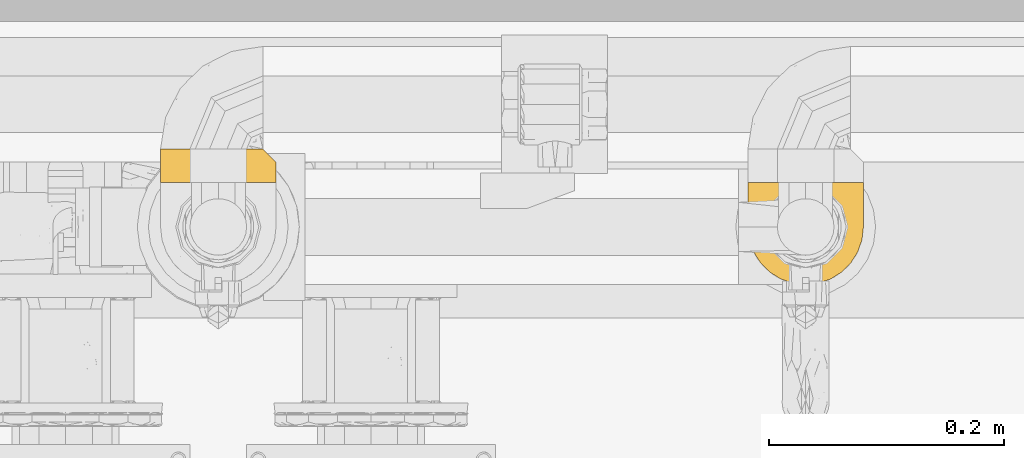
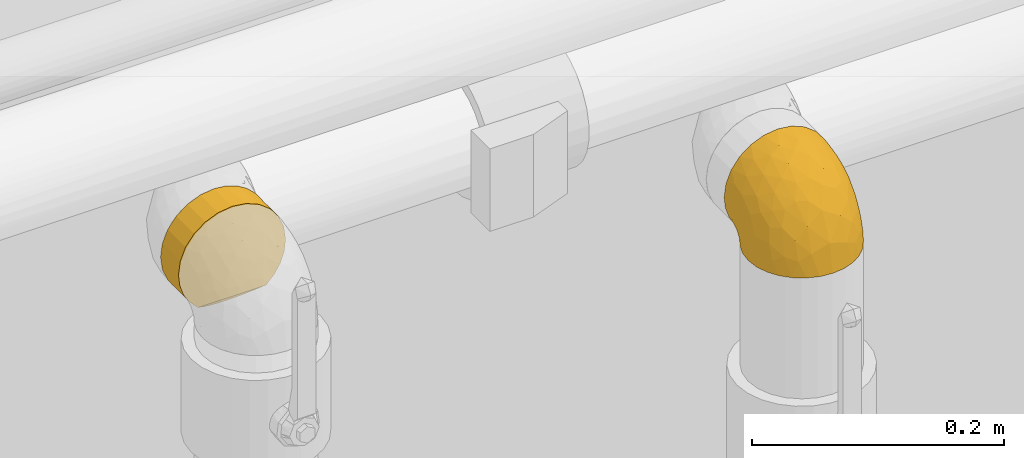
# One storey, part 18 of 94: 2 coverings.
"""IFC2X3 building model written with IfcOpenShell, lengths in millimetres."""

from ifc_helpers import new_model, entity, si_unit, converted_unit, derived_unit, direction, frame, origin, place, context, subcontext, project, spatial, faceted_brep, material, element, save


model = new_model("IFC2X3")

# Units and contexts
model_context = context("Model", 3, precision=0.01, world=origin(), true_north=direction((6.123031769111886e-17, 1.0)))
body_context = subcontext(model_context, "Body", "Model", "MODEL_VIEW")
ifc_project = project(units=[si_unit("LENGTHUNIT", "METRE", prefix="MILLI"), si_unit("AREAUNIT", "SQUARE_METRE"), si_unit("VOLUMEUNIT", "CUBIC_METRE"), converted_unit("PLANEANGLEUNIT", "DEGREE", entity("IfcRatioMeasure", 0.017453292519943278), si_unit("PLANEANGLEUNIT", "RADIAN"), dimensions=[0, 0, 0, 0, 0, 0, 0]), si_unit("MASSUNIT", "GRAM", prefix="KILO"), derived_unit("MASSDENSITYUNIT", [(si_unit("MASSUNIT", "GRAM", prefix="KILO"), 1), (si_unit("LENGTHUNIT", "METRE"), -3)]), derived_unit("IONCONCENTRATIONUNIT", [(si_unit("MASSUNIT", "GRAM", prefix="KILO"), 1), (si_unit("LENGTHUNIT", "METRE"), -3)]), derived_unit("MOMENTOFINERTIAUNIT", [(si_unit("LENGTHUNIT", "METRE"), 4)]), si_unit("TIMEUNIT", "SECOND"), si_unit("FREQUENCYUNIT", "HERTZ"), si_unit("THERMODYNAMICTEMPERATUREUNIT", "DEGREE_CELSIUS"), derived_unit("THERMALTRANSMITTANCEUNIT", [(si_unit("MASSUNIT", "GRAM", prefix="KILO"), 1), (si_unit("THERMODYNAMICTEMPERATUREUNIT", "KELVIN"), -1), (si_unit("TIMEUNIT", "SECOND"), -3)]), derived_unit("THERMALCONDUCTANCEUNIT", [(si_unit("MASSUNIT", "GRAM", prefix="KILO"), 1), (si_unit("THERMODYNAMICTEMPERATUREUNIT", "KELVIN"), -1), (si_unit("TIMEUNIT", "SECOND"), -3), (si_unit("LENGTHUNIT", "METRE"), 1)]), derived_unit("VOLUMETRICFLOWRATEUNIT", [(si_unit("LENGTHUNIT", "METRE"), 3), (si_unit("TIMEUNIT", "SECOND"), -1)]), derived_unit("MASSFLOWRATEUNIT", [(si_unit("MASSUNIT", "GRAM", prefix="KILO"), 1), (si_unit("TIMEUNIT", "SECOND"), -1)]), derived_unit("ROTATIONALFREQUENCYUNIT", [(si_unit("TIMEUNIT", "SECOND"), -1)]), si_unit("ELECTRICCURRENTUNIT", "AMPERE"), si_unit("ELECTRICVOLTAGEUNIT", "VOLT"), si_unit("POWERUNIT", "WATT"), si_unit("FORCEUNIT", "NEWTON", prefix="KILO"), si_unit("ILLUMINANCEUNIT", "LUX"), si_unit("LUMINOUSFLUXUNIT", "LUMEN"), si_unit("LUMINOUSINTENSITYUNIT", "CANDELA"), derived_unit("USERDEFINED", [(si_unit("MASSUNIT", "GRAM", prefix="KILO"), -1), (si_unit("LENGTHUNIT", "METRE"), -2), (si_unit("TIMEUNIT", "SECOND"), 3), (si_unit("LUMINOUSFLUXUNIT", "LUMEN"), 1)]), derived_unit("USERDEFINED", [(si_unit("MASSUNIT", "GRAM", prefix="KILO"), 1), (si_unit("TIMEUNIT", "SECOND"), -3), (si_unit("LENGTHUNIT", "METRE"), 3), (si_unit("ELECTRICCURRENTUNIT", "AMPERE"), -2)]), derived_unit("SOUNDPOWERUNIT", [(si_unit("MASSUNIT", "GRAM", prefix="KILO"), 1), (si_unit("TIMEUNIT", "SECOND"), -3), (si_unit("LENGTHUNIT", "METRE"), 2)]), derived_unit("SOUNDPRESSUREUNIT", [(si_unit("MASSUNIT", "GRAM", prefix="KILO"), 1), (si_unit("LENGTHUNIT", "METRE"), -1), (si_unit("TIMEUNIT", "SECOND"), -2)]), derived_unit("LINEARVELOCITYUNIT", [(si_unit("LENGTHUNIT", "METRE"), 1), (si_unit("TIMEUNIT", "SECOND"), -1)]), si_unit("PRESSUREUNIT", "PASCAL"), derived_unit("USERDEFINED", [(si_unit("MASSUNIT", "GRAM", prefix="KILO"), 1), (si_unit("LENGTHUNIT", "METRE"), -2), (si_unit("TIMEUNIT", "SECOND"), -2)]), derived_unit("LINEARFORCEUNIT", [(si_unit("MASSUNIT", "GRAM", prefix="KILO"), 1), (si_unit("TIMEUNIT", "SECOND"), -2)]), derived_unit("PLANARFORCEUNIT", [(si_unit("MASSUNIT", "GRAM", prefix="KILO"), 1), (si_unit("LENGTHUNIT", "METRE"), -1), (si_unit("TIMEUNIT", "SECOND"), -2)]), derived_unit("SPECIFICHEATCAPACITYUNIT", [(si_unit("THERMODYNAMICTEMPERATUREUNIT", "KELVIN"), -1), (si_unit("LENGTHUNIT", "METRE"), 2), (si_unit("TIMEUNIT", "SECOND"), -2)]), derived_unit("HEATINGVALUEUNIT", [(si_unit("LENGTHUNIT", "METRE"), 2), (si_unit("TIMEUNIT", "SECOND"), -2)]), derived_unit("VAPORPERMEABILITYUNIT", [(si_unit("LENGTHUNIT", "METRE"), -1), (si_unit("TIMEUNIT", "SECOND"), 1)]), derived_unit("DYNAMICVISCOSITYUNIT", [(si_unit("MASSUNIT", "GRAM", prefix="KILO"), 1), (si_unit("TIMEUNIT", "SECOND"), -1), (si_unit("LENGTHUNIT", "METRE"), -1)]), derived_unit("THERMALEXPANSIONCOEFFICIENTUNIT", [(si_unit("THERMODYNAMICTEMPERATUREUNIT", "KELVIN"), -1)]), derived_unit("MODULUSOFELASTICITYUNIT", [(si_unit("MASSUNIT", "GRAM", prefix="KILO"), 1), (si_unit("LENGTHUNIT", "METRE"), -1), (si_unit("TIMEUNIT", "SECOND"), -2)]), derived_unit("ISOTHERMALMOISTURECAPACITYUNIT", [(si_unit("LENGTHUNIT", "METRE"), 3), (si_unit("MASSUNIT", "GRAM", prefix="KILO"), -1)]), derived_unit("MOISTUREDIFFUSIVITYUNIT", [(si_unit("TIMEUNIT", "SECOND"), -1), (si_unit("LENGTHUNIT", "METRE"), 2)])], contexts=[model_context])

# Site, building, storey
site_placement = place(None, origin())
site = spatial("IfcSite", under=ifc_project, at=site_placement, Name="Default", CompositionType="ELEMENT")
building_placement = place(site_placement, origin())
building = spatial("IfcBuilding", under=site, at=building_placement, CompositionType="ELEMENT")
storey_placement = place(building_placement, origin())
storey = spatial("IfcBuildingStorey", under=building, at=storey_placement, Name="Niveau 0", CompositionType="ELEMENT", Elevation=0.0)

# Coverings
ifc_material = material(Name="Isolation - Laine minérale")
covering_1_placement = place(storey_placement, frame((-9022.891137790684, 9871.725273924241, 2610.4047277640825)))
element("IfcCovering", 1, at=covering_1_placement, inside=storey, material=ifc_material, Name="Isolation des canalisations:Laine minérale", ObjectType="Isolation des canalisations:Laine minérale", PredefinedType="INSULATION", context=body_context, shape_type="Brep", body=[
    faceted_brep([(95.02415814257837, 29.412134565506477, 1.5952722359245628), (89.16631019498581, 20.093252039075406, 1.5952722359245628), (81.38263886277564, 12.31254833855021, 1.5952722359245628), (72.06354573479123, 6.459227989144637, 1.5952722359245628), (61.67593083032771, 2.8261403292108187, 1.5952722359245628), (50.74527223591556, 1.5952722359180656, 1.5952722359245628), (39.80290363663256, 2.8288129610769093, 1.5952722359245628), (29.41213456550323, 6.4663863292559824, 1.5952722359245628), (20.093252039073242, 12.324234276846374, 1.5952722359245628), (12.31254833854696, 20.10790560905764, 1.5952722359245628), (6.459227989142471, 29.42699873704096, 1.5952722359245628), (2.826140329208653, 39.81461364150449, 1.5952722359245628), (1.5952722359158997, 50.74527223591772, 1.5952722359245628), (2.765001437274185, 61.404358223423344, 1.5952722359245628), (6.216868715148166, 71.55257335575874, 1.5952722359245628), (11.785042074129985, 80.70896636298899, 1.5952722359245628), (19.19437336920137, 88.43165280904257, 1.5952722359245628), (21.63864226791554, 88.43165280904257, 1.5952722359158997), (23.415694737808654, 88.43165280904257, 1.5952722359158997), (25.192747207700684, 88.43165280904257, 1.5952722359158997), (26.692340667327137, 88.43165280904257, 1.5952722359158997), (28.191934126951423, 88.43165280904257, 1.5952722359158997), (31.191121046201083, 88.43165280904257, 1.5952722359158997), (34.19030796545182, 88.43165280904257, 1.5952722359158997), (37.18949488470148, 88.43165280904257, 1.5952722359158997), (40.18868180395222, 88.43165280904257, 1.5952722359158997), (41.68827526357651, 88.43165280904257, 1.5952722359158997), (43.18786872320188, 88.43165280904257, 1.5952722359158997), (45.63213762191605, 88.43165280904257, 1.5952722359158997), (48.07640652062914, 88.43165280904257, 1.5952722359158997), (50.5206754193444, 88.43165280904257, 1.5952722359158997), (52.96494431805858, 88.43165280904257, 1.5952722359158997), (55.40921321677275, 88.43165280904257, 1.5952722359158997), (57.853482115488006, 88.43165280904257, 1.5952722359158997), (60.2977510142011, 88.43165280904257, 1.5952722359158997), (62.742019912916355, 88.43165280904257, 1.5952722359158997), (65.18628881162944, 88.43165280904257, 1.5952722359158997), (67.6305577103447, 88.43165280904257, 1.5952722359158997), (70.07482660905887, 88.43165280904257, 1.5952722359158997), (72.51909550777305, 88.43165280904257, 1.5952722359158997), (74.96336440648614, 88.43165280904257, 1.5952722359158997), (77.4076333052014, 88.43165280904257, 1.5952722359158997), (79.85190220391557, 88.43165280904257, 1.5952722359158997), (82.29617110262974, 88.43165280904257, 1.5952722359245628), (89.71827412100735, 80.69235262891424, 1.5952722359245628), (95.28368576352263, 71.53113811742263, 1.5952722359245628), (98.73008326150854, 61.383900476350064, 1.5952722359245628), (99.89527223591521, 50.74527223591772, 1.5952722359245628), (98.66173151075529, 39.802903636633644, 1.5952722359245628), (11.777056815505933, 88.74527223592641, 9.641963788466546), (6.211862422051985, 88.74527223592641, 18.798688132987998), (2.7632985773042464, 88.74527223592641, 28.94385431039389), (1.5952722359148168, 88.74527223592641, 39.59527223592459), (3.270017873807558, 88.74527223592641, 52.31622830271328), (8.18012363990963, 88.74527223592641, 64.17027223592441), (15.990973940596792, 88.74527223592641, 74.34957053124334), (26.17027223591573, 88.74527223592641, 82.16042083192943), (38.02431616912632, 88.74527223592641, 87.07052659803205), (50.74527223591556, 88.74527223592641, 88.74527223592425), (63.466228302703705, 88.74527223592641, 87.07052659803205), (75.32027223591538, 88.74527223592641, 82.16042083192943), (85.49957053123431, 88.74527223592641, 74.34957053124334), (93.3104208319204, 88.74527223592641, 64.17027223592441), (98.22052659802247, 88.74527223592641, 52.31622830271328), (99.89527223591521, 88.74527223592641, 39.59527223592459), (98.72724589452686, 88.74527223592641, 28.94385431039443), (95.27868204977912, 88.74527223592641, 18.798688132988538), (89.71348765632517, 88.74527223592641, 9.641963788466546), (82.29617110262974, 88.74527223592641, 1.9088916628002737), (79.85190220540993, 88.74527223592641, 1.9088916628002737), (78.3523087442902, 88.74527223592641, 1.9088916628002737), (76.38037756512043, 88.74527223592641, 1.9088916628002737), (74.40844638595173, 88.74527223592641, 1.9088916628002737), (72.43651520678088, 88.74527223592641, 1.9088916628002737), (70.46458402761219, 88.74527223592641, 1.9088916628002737), (68.49265284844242, 88.74527223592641, 1.9088916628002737), (66.52072166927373, 88.74527223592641, 1.9088916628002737), (64.54879049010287, 88.74527223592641, 1.9088916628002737), (62.5768593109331, 88.74527223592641, 1.9088916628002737), (60.60492813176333, 88.74527223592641, 1.9088916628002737), (58.63299695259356, 88.74527223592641, 1.9088916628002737), (56.66106577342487, 88.74527223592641, 1.9088916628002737), (54.6891345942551, 88.74527223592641, 1.9088916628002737), (52.71720341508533, 88.74527223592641, 1.9088916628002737), (50.74527223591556, 88.74527223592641, 1.9088916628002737), (48.7733410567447, 88.74527223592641, 1.9088916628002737), (46.80140987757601, 88.74527223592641, 1.9088916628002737), (44.82947869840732, 88.74527223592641, 1.9088916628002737), (42.85754751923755, 88.74527223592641, 1.9088916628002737), (40.88561634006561, 88.74527223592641, 1.9088916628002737), (38.913685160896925, 88.74527223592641, 1.9088916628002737), (36.94175398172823, 88.74527223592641, 1.9088916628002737), (34.96982280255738, 88.74527223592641, 1.9088916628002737), (31.97063588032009, 88.74527223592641, 1.9088916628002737), (28.97144895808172, 88.74527223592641, 1.9088916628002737), (26.5271800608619, 88.74527223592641, 1.9088916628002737), (24.082911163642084, 88.74527223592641, 1.9088916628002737), (21.638642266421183, 88.74527223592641, 1.9088916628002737), (19.19437336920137, 88.74527223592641, 1.908891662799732), (53.75333970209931, 88.53090125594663, 1.8241875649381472), (51.832765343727, 88.52210831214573, 1.8156242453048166), (61.47290163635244, 88.52122178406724, 1.8147227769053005), (63.56282540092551, 88.52777998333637, 1.821224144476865), (48.00102702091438, 88.54092532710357, 1.8331787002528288), (77.24999397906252, 88.53506454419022, 1.828016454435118), (80.69913834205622, 88.49130573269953, 1.7792781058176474), (42.43807145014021, 88.51810292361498, 1.8114926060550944), (22.860776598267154, 88.52350981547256, 1.8170346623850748), (24.70021643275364, 88.52548149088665, 1.8189889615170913), (71.3700895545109, 88.51653277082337, 1.809830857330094), (73.40383885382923, 88.52674320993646, 1.820221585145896), (44.410002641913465, 88.50469006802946, 1.796462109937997), (37.92771907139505, 88.52964682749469, 1.8230063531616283), (39.81308540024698, 88.53317608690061, 1.8262968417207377), (35.95578792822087, 88.51585328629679, 1.8091041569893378), (49.75930651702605, 88.52914218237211, 1.8225274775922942), (21.02757498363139, 88.52591800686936, 1.8194169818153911), (55.67510065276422, 88.53664906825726, 1.8294378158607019), (67.50668767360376, 88.53747885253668, 1.8301744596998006), (65.61454699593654, 88.53273195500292, 1.8258883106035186), (34.10458092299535, 88.53426299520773, 1.8272900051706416), (57.55217518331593, 88.53370000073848, 1.8267767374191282), (79.10210557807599, 88.52350981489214, 1.8170346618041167), (75.39441218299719, 88.53493173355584, 1.8278964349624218), (82.29617110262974, 88.52350981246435, 1.8170346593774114), (82.29617110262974, 88.4948797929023, 1.747915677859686), (82.29617110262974, 88.46624977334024, 1.6787966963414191), (19.19437336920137, 88.52350981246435, 1.8170346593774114), (19.19437336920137, 88.59262879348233, 1.845664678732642), (19.19437336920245, 88.66174777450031, 1.8742946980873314), (32.212157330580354, 88.5100064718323, 1.8026539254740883), (69.4355922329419, 88.53042484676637, 1.823740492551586), (46.24828797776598, 88.52246762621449, 1.81598755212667), (59.49061335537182, 88.52470424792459, 1.8182226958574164), (29.41925201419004, 88.50579329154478, 1.7977740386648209), (27.44213716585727, 88.5274414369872, 1.820897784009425), (82.29617110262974, 88.66174777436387, 1.8742946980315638), (82.29617110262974, 88.5926287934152, 1.845664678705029), (19.19437336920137, 88.46624977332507, 1.6787966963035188), (19.19437336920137, 88.49487979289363, 1.7479156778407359), (4.210283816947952, 85.22080157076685, 23.495219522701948), (8.744179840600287, 85.93611072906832, 13.747756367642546), (4.210283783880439, 81.07807843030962, 22.409779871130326), (9.955583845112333, 83.13289242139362, 10.562522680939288), (1.5952722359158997, 79.24527223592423, 37.049754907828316), (1.5952722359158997, 81.28890223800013, 37.59734391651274), (1.5952722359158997, 55.83630689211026, 20.595272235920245), (2.93549782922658, 66.39553001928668, 16.020149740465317), (4.213452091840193, 67.9404040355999, 9.261677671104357), (1.5952722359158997, 69.74527223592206, 34.50423757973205), (9.405305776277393, 80.67378389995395, 9.667897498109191), (9.963487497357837, 79.78892094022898, 7.202912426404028), (2.9356418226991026, 74.32109358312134, 23.94474674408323), (4.213452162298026, 66.85470593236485, 5.119390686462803), (8.750654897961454, 76.603363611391, 4.402893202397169), (5.690627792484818, 79.64911936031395, 17.541506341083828), (1.5952722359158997, 52.743200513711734, 9.051642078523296), (1.5952722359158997, 53.29078956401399, 11.095272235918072), (4.482619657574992, 73.61168493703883, 16.72885944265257), (1.5952722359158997, 62.790789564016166, 27.549754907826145), (5.766057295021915, 73.87988529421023, 12.071559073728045), (2.6117250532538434, 75.32913676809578, 47.62395095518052), (2.657531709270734, 65.9107418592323, 44.00144112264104), (11.131578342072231, 53.84761415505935, 58.899698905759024), (20.82464790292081, 59.13651173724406, 72.66771487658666), (11.7519547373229, 71.16612245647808, 67.20155656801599), (5.336592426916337, 67.0054527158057, 54.07984229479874), (5.336592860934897, 78.8805128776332, 57.54110754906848), (50.74527223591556, 37.51978749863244, 72.10110329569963), (50.74527223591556, 61.81444117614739, 84.4798476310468), (40.339739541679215, 53.875201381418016, 80.24801351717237), (9.124243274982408, 25.784943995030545, 13.851436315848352), (4.351045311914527, 36.24418276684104, 15.165285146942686), (32.64695426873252, 29.562882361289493, 60.77765845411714), (23.768909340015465, 30.770681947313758, 55.385836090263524), (35.61531809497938, 15.292222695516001, 43.89737524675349), (41.696133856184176, 71.31385843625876, 86.12648113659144), (30.50981773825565, 47.24102741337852, 73.23168363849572), (21.748430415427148, 43.50389303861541, 64.7473857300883), (20.824647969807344, 75.28985257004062, 77.40373146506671), (31.93638275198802, 67.10273039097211, 82.14716981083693), (15.984346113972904, 37.09920094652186, 52.82911549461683), (9.509703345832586, 44.51517687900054, 48.878965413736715), (11.405769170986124, 33.70477633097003, 40.607220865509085), (3.7235321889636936, 44.05169469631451, 28.76995319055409), (9.124242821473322, 30.044081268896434, 27.448445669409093), (15.984347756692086, 18.312338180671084, 19.800365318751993), (50.74527223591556, 5.8606968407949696, 28.52610329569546), (34.50535109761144, 7.041406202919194, 22.71562192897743), (18.535934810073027, 25.61446965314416, 42.31748570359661), (24.588194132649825, 15.886915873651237, 33.6838277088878), (24.588193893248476, 10.600409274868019, 16.806973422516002), (39.07585882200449, 38.50378416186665, 71.0785805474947), (42.346184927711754, 25.345180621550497, 60.332491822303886), (2.5632520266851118, 53.163504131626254, 33.37332146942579), (50.74527223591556, 18.239441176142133, 52.82075697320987), (4.722449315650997, 52.69469876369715, 43.46542968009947), (69.5541610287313, 58.17589226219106, 79.2001746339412), (59.5851078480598, 71.70091272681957, 86.24488809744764), (59.865425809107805, 54.57433327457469, 80.83807017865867), (66.13789702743, 42.49805076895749, 72.52816019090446), (69.55416221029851, 75.06235489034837, 83.87397883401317), (85.49332197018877, 24.5251412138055, 35.798660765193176), (78.98858976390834, 25.786342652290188, 48.02046276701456), (76.88743080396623, 15.878231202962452, 33.68736739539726), (85.49294527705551, 37.08979212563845, 52.83844921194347), (78.28666517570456, 35.71336208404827, 59.75598123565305), (97.13479117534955, 36.23150879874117, 15.170016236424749), (98.95303587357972, 70.53804152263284, 45.55141709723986), (99.89527223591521, 69.74527223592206, 34.50423757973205), (99.89527223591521, 79.24527223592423, 37.049754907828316), (66.97173870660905, 7.0362994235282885, 22.71467774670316), (80.66589652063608, 69.24086116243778, 76.07714087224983), (92.35692696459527, 30.03051209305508, 27.45465165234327), (92.35692651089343, 25.770245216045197, 13.854008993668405), (89.73858944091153, 76.87540408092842, 68.47065883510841), (96.15395178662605, 74.00473445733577, 56.45843349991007), (79.62483877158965, 48.41047025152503, 68.08854506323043), (89.7385902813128, 62.62553049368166, 64.29272071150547), (59.508159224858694, 31.220776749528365, 66.01125638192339), (68.8345286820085, 29.560345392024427, 60.78019542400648), (99.01263503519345, 79.82666983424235, 48.01911236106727), (76.887431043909, 10.591274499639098, 16.809109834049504), (65.85652255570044, 15.287247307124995, 43.900853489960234), (85.49294363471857, 18.299506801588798, 19.803681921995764), (97.76388503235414, 44.04987097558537, 28.786726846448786), (99.89527223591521, 55.83630689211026, 20.595272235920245), (98.78930951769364, 54.23536248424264, 35.485066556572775), (99.89527223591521, 62.790789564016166, 27.549754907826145), (99.89527223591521, 52.74320051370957, 9.051642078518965), (99.89527223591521, 53.29078956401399, 11.095272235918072), (91.50386042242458, 48.41211537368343, 53.16291239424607), (96.42683125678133, 64.14304703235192, 52.05308452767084), (93.1499194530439, 40.10640265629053, 41.401037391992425), (99.08337182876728, 62.89073418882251, 40.721221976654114), (86.09107557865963, 47.672778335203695, 60.91677547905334), (96.67816905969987, 55.38955823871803, 45.94061161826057), (97.28026029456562, 81.07807840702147, 22.409778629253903), (95.72662397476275, 78.26566497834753, 16.46425424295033), (98.5546584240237, 74.3207291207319, 23.943292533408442), (97.28026045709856, 85.22080145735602, 23.495218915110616), (92.74636428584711, 85.93611080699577, 13.74775580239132), (91.53641117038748, 83.13257230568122, 10.564867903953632), (90.1127562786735, 82.6819800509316, 7.656624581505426), (97.0051951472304, 73.61706381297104, 16.72348133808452), (91.54965419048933, 79.75777141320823, 7.216517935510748), (97.2842704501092, 67.9184535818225, 9.263185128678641), (97.28427059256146, 66.83334757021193, 5.1195933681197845), (92.7514749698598, 76.58449008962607, 4.405878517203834), (98.55441347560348, 66.39770760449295, 16.01862728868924), (95.80583125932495, 72.7838259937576, 10.692146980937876)], [[[0, 1, 2, 3, 4, 5, 6, 7, 8, 9, 10, 11, 12, 13, 14, 15, 16, 17, 18, 19, 20, 21, 22, 23, 24, 25, 26, 27, 28, 29, 30, 31, 32, 33, 34, 35, 36, 37, 38, 39, 40, 41, 42, 43, 44, 45, 46, 47, 48]], [[49, 50, 51, 52, 53, 54, 55, 56, 57, 58, 59, 60, 61, 62, 63, 64, 65, 66, 67, 68, 69, 70, 71, 72, 73, 74, 75, 76, 77, 78, 79, 80, 81, 82, 83, 84, 85, 86, 87, 88, 89, 90, 91, 92, 93, 94, 95, 96, 97, 98]], [[99, 100, 83]], [[101, 102, 35]], [[85, 103, 86]], [[71, 70, 104]], [[105, 69, 68]], [[27, 26, 106]], [[18, 107, 108]], [[109, 73, 110]], [[28, 27, 111]], [[25, 112, 113]], [[108, 96, 95]], [[114, 92, 91]], [[103, 85, 115]], [[96, 107, 97]], [[107, 17, 116]], [[78, 102, 101]], [[99, 117, 32]], [[76, 118, 119]], [[120, 92, 114]], [[112, 90, 113]], [[88, 111, 106]], [[40, 39, 110]], [[107, 96, 108]], [[32, 117, 121]], [[91, 90, 112]], [[37, 119, 118]], [[84, 115, 85]], [[69, 105, 122]], [[71, 123, 72]], [[105, 124, 125, 126, 43]], [[116, 17, 16]], [[122, 70, 69]], [[41, 122, 42]], [[116, 127, 128, 129, 98]], [[110, 123, 40]], [[42, 122, 105]], [[120, 23, 130]], [[24, 114, 112]], [[114, 24, 23]], [[104, 123, 71]], [[91, 112, 114]], [[104, 122, 41]], [[24, 112, 25]], [[110, 72, 123]], [[36, 119, 37]], [[40, 123, 41]], [[74, 73, 109]], [[131, 75, 74]], [[118, 131, 37]], [[109, 110, 39]], [[109, 39, 38]], [[73, 72, 110]], [[123, 104, 41]], [[122, 104, 70]], [[26, 25, 113]], [[113, 89, 106]], [[87, 86, 132]], [[113, 106, 26]], [[76, 75, 118]], [[132, 111, 87]], [[106, 111, 27]], [[132, 28, 111]], [[87, 111, 88]], [[88, 106, 89]], [[113, 90, 89]], [[131, 118, 75]], [[38, 37, 131]], [[119, 36, 102]], [[131, 109, 38]], [[109, 131, 74]], [[78, 77, 102]], [[77, 119, 102]], [[77, 76, 119]], [[121, 80, 133]], [[36, 35, 102]], [[33, 121, 133]], [[79, 78, 101]], [[34, 101, 35]], [[132, 29, 28]], [[80, 79, 133]], [[29, 103, 115]], [[30, 29, 115]], [[86, 103, 132]], [[100, 115, 84]], [[31, 30, 100]], [[115, 100, 30]], [[32, 31, 99]], [[117, 81, 121]], [[100, 84, 83]], [[99, 82, 117]], [[81, 117, 82]], [[33, 32, 121]], [[82, 99, 83]], [[100, 99, 31]], [[34, 33, 133]], [[121, 81, 80]], [[133, 101, 34]], [[101, 133, 79]], [[134, 94, 93]], [[23, 120, 114]], [[132, 103, 29]], [[120, 93, 92]], [[93, 120, 130]], [[97, 107, 116]], [[108, 20, 19, 18]], [[21, 135, 134]], [[20, 135, 21]], [[134, 135, 94]], [[108, 95, 135]], [[108, 135, 20]], [[135, 95, 94]], [[134, 22, 21]], [[130, 22, 134]], [[42, 105, 43]], [[105, 68, 136, 137, 124]], [[97, 116, 98]], [[116, 16, 138, 139, 127]], [[18, 17, 107]], [[93, 130, 134]], [[22, 130, 23]], [[140, 141, 142]], [[143, 129, 128, 127]], [[51, 144, 145, 52]], [[146, 147, 148]], [[142, 149, 144]], [[150, 127, 151]], [[50, 140, 51]], [[142, 152, 149]], [[51, 140, 144]], [[129, 143, 141]], [[14, 13, 153]], [[148, 151, 154]], [[155, 141, 143]], [[151, 138, 154]], [[14, 153, 154]], [[16, 15, 138]], [[13, 12, 156, 157]], [[152, 155, 158]], [[159, 158, 147]], [[157, 148, 153]], [[14, 154, 15]], [[49, 98, 129]], [[49, 129, 141]], [[141, 50, 49]], [[160, 148, 147]], [[146, 148, 157]], [[138, 15, 154]], [[150, 158, 155]], [[151, 127, 139, 138]], [[141, 140, 50]], [[144, 140, 142]], [[157, 153, 13]], [[154, 153, 148]], [[149, 152, 159]], [[160, 147, 158]], [[147, 146, 159]], [[155, 152, 142]], [[159, 152, 158]], [[127, 150, 143]], [[160, 150, 151]], [[150, 160, 158]], [[148, 160, 151]], [[141, 155, 142]], [[155, 143, 150]], [[156, 12, 11]], [[161, 149, 162]], [[163, 164, 165]], [[166, 167, 161]], [[168, 169, 170]], [[54, 165, 55]], [[171, 172, 10]], [[173, 174, 175]], [[57, 176, 58]], [[173, 177, 178]], [[179, 56, 55]], [[54, 167, 165]], [[170, 180, 177]], [[56, 179, 180]], [[167, 54, 53]], [[181, 182, 183]], [[184, 146, 172]], [[172, 185, 184]], [[186, 185, 171]], [[186, 9, 8]], [[172, 146, 157, 156]], [[172, 11, 10]], [[173, 178, 174]], [[6, 187, 188]], [[189, 186, 190]], [[191, 186, 8]], [[175, 190, 188]], [[168, 192, 193]], [[189, 190, 174]], [[56, 180, 57]], [[8, 7, 191]], [[188, 7, 6]], [[6, 5, 187]], [[190, 191, 188]], [[159, 194, 162]], [[175, 187, 195]], [[177, 180, 164]], [[10, 9, 171]], [[176, 180, 170]], [[156, 11, 172]], [[163, 165, 166]], [[179, 165, 164]], [[53, 52, 145]], [[185, 189, 183]], [[184, 196, 194]], [[188, 191, 7]], [[186, 191, 190]], [[186, 171, 9]], [[172, 171, 185]], [[187, 175, 188]], [[193, 175, 195]], [[196, 163, 166]], [[163, 181, 178]], [[162, 166, 161]], [[184, 185, 183]], [[178, 177, 164]], [[177, 192, 170]], [[177, 173, 192]], [[176, 170, 169]], [[58, 176, 169]], [[57, 180, 176]], [[193, 192, 173]], [[168, 170, 192]], [[175, 193, 173]], [[168, 193, 195]], [[163, 178, 164]], [[184, 194, 146]], [[178, 181, 174]], [[189, 174, 181]], [[175, 174, 190]], [[183, 189, 181]], [[186, 189, 185]], [[182, 181, 163]], [[183, 182, 184]], [[163, 196, 182]], [[184, 182, 196]], [[165, 179, 55]], [[180, 179, 164]], [[161, 53, 145]], [[165, 167, 166]], [[53, 161, 167]], [[161, 145, 144, 149]], [[159, 162, 149]], [[196, 166, 162]], [[162, 194, 196]], [[146, 194, 159]], [[197, 198, 199]], [[58, 169, 198]], [[197, 199, 200]], [[198, 197, 201]], [[202, 203, 204]], [[60, 59, 201]], [[205, 206, 203]], [[0, 48, 207]], [[208, 209, 210]], [[187, 4, 211]], [[201, 212, 60]], [[213, 214, 207]], [[61, 215, 62]], [[62, 215, 216]], [[3, 211, 4]], [[217, 218, 212]], [[219, 220, 200]], [[216, 208, 221]], [[3, 2, 222]], [[62, 216, 63]], [[61, 60, 212]], [[211, 3, 222]], [[5, 4, 187]], [[217, 197, 200]], [[203, 223, 204]], [[2, 1, 224]], [[225, 213, 207]], [[204, 222, 224]], [[1, 0, 214]], [[204, 224, 202]], [[207, 226, 225]], [[227, 226, 228]], [[223, 211, 204]], [[214, 224, 1]], [[202, 224, 213]], [[48, 47, 229]], [[207, 229, 230, 226]], [[211, 223, 187]], [[218, 231, 232]], [[48, 229, 207]], [[205, 233, 231]], [[233, 213, 225]], [[217, 212, 197]], [[215, 212, 218]], [[228, 234, 227]], [[233, 205, 202]], [[208, 234, 209]], [[63, 221, 64]], [[235, 205, 231]], [[207, 214, 0]], [[224, 214, 213]], [[224, 222, 2]], [[211, 222, 204]], [[219, 223, 220]], [[187, 223, 195]], [[227, 233, 225]], [[234, 228, 209]], [[231, 233, 236]], [[221, 208, 210]], [[232, 208, 216]], [[64, 221, 210]], [[216, 221, 63]], [[233, 202, 213]], [[203, 202, 205]], [[205, 235, 206]], [[223, 203, 220]], [[200, 206, 217]], [[220, 203, 206]], [[232, 231, 236]], [[235, 218, 217]], [[212, 215, 61]], [[216, 215, 218]], [[218, 232, 216]], [[234, 232, 236]], [[232, 234, 208]], [[234, 236, 227]], [[233, 227, 236]], [[226, 227, 225]], [[198, 201, 59]], [[212, 201, 197]], [[58, 198, 59]], [[198, 169, 199]], [[169, 168, 199]], [[219, 200, 199]], [[219, 199, 168]], [[200, 220, 206]], [[168, 195, 219]], [[223, 219, 195]], [[218, 235, 231]], [[206, 235, 217]], [[65, 64, 210]], [[209, 237, 210]], [[238, 237, 239]], [[66, 240, 241]], [[242, 136, 241]], [[243, 137, 242]], [[243, 244, 245]], [[65, 240, 66]], [[136, 68, 67]], [[136, 67, 241]], [[246, 226, 230]], [[66, 241, 67]], [[210, 237, 240]], [[45, 247, 46]], [[209, 239, 237]], [[246, 247, 248]], [[46, 247, 230]], [[249, 250, 244]], [[239, 228, 244]], [[226, 246, 249]], [[250, 248, 245]], [[44, 43, 126]], [[237, 242, 241]], [[248, 45, 44]], [[44, 126, 248]], [[46, 230, 229, 47]], [[245, 126, 125]], [[126, 245, 248]], [[243, 124, 137]], [[210, 240, 65]], [[241, 240, 237]], [[248, 247, 45]], [[230, 247, 246]], [[226, 249, 228]], [[238, 239, 244]], [[239, 209, 228]], [[250, 249, 246]], [[228, 249, 244]], [[243, 242, 238]], [[136, 242, 137]], [[124, 243, 125]], [[125, 243, 245]], [[243, 238, 244]], [[237, 238, 242]], [[248, 250, 246]], [[244, 250, 245]]]),
])
covering_2_placement = place(storey_placement, frame((-9522.87113779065, 9958.875273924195, 2800.7252722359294)))
element("IfcCovering", 2, at=covering_2_placement, inside=storey, material=ifc_material, Name="Isolation des canalisations:Laine minérale", ObjectType="Isolation des canalisations:Laine minérale", PredefinedType="INSULATION", context=body_context, shape_type="Brep", body=[
    faceted_brep([(12.012544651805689, 1.595272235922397, -80.97558831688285), (19.58435221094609, 1.5952722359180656, -88.72527223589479), (81.86619226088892, 1.5952722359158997, -88.72527223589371), (89.43799982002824, 1.5952722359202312, -80.97558831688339), (95.1273794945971, 1.5952722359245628, -71.75405657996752), (98.65694811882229, 1.5952722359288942, -61.51004608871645), (99.85527223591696, 1.5952722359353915, -50.72527223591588), (98.18120808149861, 1.5952722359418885, -38.00949255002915), (93.2731003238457, 1.5952722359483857, -26.160272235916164), (85.46542839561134, 1.595272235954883, -15.985116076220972), (75.29027223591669, 1.5952722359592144, -8.177444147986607), (63.4410519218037, 1.5952722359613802, -3.26933639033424), (50.72527223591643, 1.5952722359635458, -1.5952722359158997), (38.00949255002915, 1.5952722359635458, -3.26933639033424), (26.160272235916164, 1.5952722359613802, -8.177444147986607), (15.985116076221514, 1.5952722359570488, -15.985116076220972), (8.17744414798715, 1.5952722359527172, -26.160272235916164), (3.26933639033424, 1.5952722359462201, -38.00949255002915), (1.5952722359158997, 1.595272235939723, -50.72527223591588), (2.793596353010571, 1.5952722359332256, -61.510046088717), (6.323164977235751, 1.5952722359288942, -71.75405657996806), (61.51004608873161, 29.970350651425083, -98.65694811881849), (50.72527223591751, 29.970350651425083, -99.85527223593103), (38.00949255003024, 29.97035065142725, -98.18120808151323), (26.160272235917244, 29.970350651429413, -93.27310032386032), (15.985116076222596, 29.970350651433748, -85.46542839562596), (8.177444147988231, 29.970350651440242, -75.29027223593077), (3.269336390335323, 29.97035065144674, -63.441051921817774), (1.5952722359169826, 29.970350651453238, -50.725272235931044), (3.269336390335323, 29.970350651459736, -38.009492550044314), (8.177444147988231, 29.970350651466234, -26.160272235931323), (15.985116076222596, 29.970350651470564, -15.985116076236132), (26.160272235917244, 29.970350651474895, -8.177444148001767), (38.00949255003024, 29.970350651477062, -3.2693363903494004), (50.72527223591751, 29.970350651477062, -1.5952722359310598), (61.51004608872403, 29.970350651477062, -2.793596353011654), (71.7540565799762, 29.970350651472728, -6.323164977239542), (80.97558831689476, 29.970350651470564, -12.012544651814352), (88.72527223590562, 29.970350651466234, -19.584352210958), (88.72527223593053, 29.970350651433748, -81.86619226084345), (80.9755883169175, 29.970350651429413, -89.43799982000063), (71.75405657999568, 29.97035065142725, -95.1273794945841), (34.19020495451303, 9.859172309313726, -96.9891723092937), (42.334459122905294, 12.003444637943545, -99.13344463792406), (50.72527223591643, 12.725272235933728, -99.85527223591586), (26.531823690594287, 6.3554633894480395, -93.48546338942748), (59.116085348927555, 12.003444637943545, -99.13344463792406), (67.26033951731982, 9.859172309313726, -96.9891723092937), (74.91872078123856, 6.3554633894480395, -93.48546338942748), (93.4854633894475, 25.210159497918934, -74.91872078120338), (96.98917230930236, 21.706450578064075, -67.26033951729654), (99.13344463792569, 19.562178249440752, -59.116085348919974), (99.85527223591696, 18.84035065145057, -50.72527223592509), (99.13344463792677, 19.56217824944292, -42.33445912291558), (96.98917230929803, 21.706450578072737, -34.19020495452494), (93.4854633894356, 25.210159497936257, -26.53182369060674)], [[[0, 1, 2, 3, 4, 5, 6, 7, 8, 9, 10, 11, 12, 13, 14, 15, 16, 17, 18, 19, 20]], [[21, 22, 23, 24, 25, 26, 27, 28, 29, 30, 31, 32, 33, 34, 35, 36, 37, 38, 39, 40, 41]], [[19, 28, 27]], [[27, 26, 20]], [[25, 0, 26]], [[18, 28, 19]], [[20, 19, 27]], [[0, 20, 26]], [[25, 1, 0]], [[42, 24, 23]], [[23, 22, 43]], [[44, 43, 22]], [[1, 25, 45]], [[43, 42, 23]], [[45, 24, 42]], [[45, 25, 24]], [[46, 22, 21]], [[21, 41, 47]], [[40, 48, 41]], [[46, 44, 22]], [[48, 47, 41]], [[2, 48, 40]], [[46, 21, 47]], [[40, 39, 2]], [[39, 49, 3]], [[50, 51, 5]], [[49, 50, 4]], [[3, 49, 4]], [[51, 6, 5]], [[5, 4, 50]], [[6, 51, 52]], [[39, 3, 2]], [[53, 54, 7]], [[8, 55, 9]], [[54, 55, 8]], [[52, 53, 6]], [[6, 53, 7]], [[54, 8, 7]], [[55, 38, 9]], [[10, 37, 36]], [[36, 35, 11]], [[34, 12, 35]], [[9, 37, 10]], [[11, 10, 36]], [[12, 11, 35]], [[37, 9, 38]], [[12, 34, 33, 13]], [[13, 33, 32, 14]], [[14, 32, 31, 15]], [[16, 30, 29, 17]], [[17, 29, 28, 18]], [[15, 31, 30, 16]], [[45, 42, 43, 44, 46, 47, 48, 2, 1]], [[38, 55, 54, 53, 52, 51, 50, 49, 39]]]),
])

save(model, "model.ifc")
